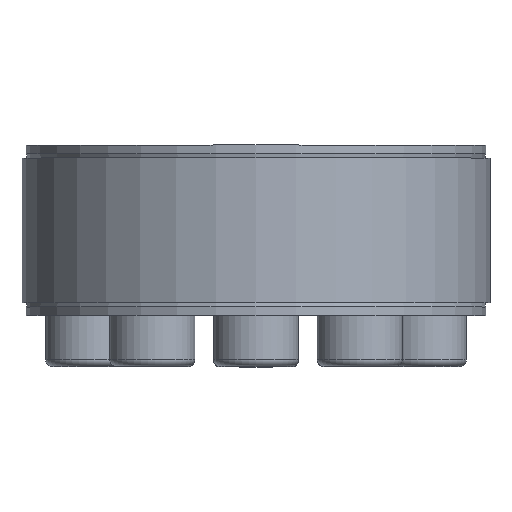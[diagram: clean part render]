
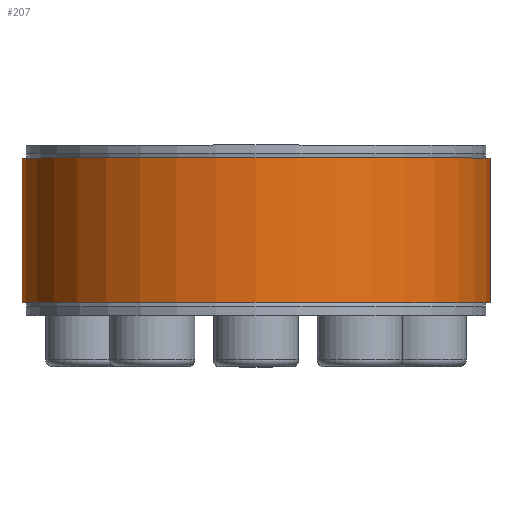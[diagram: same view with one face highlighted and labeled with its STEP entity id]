
A CAD part, top view. The second image highlights one B-rep face of the part: STEP entity #207.
In plain terms, the highlighted cylindrical face has radius 27.5 mm (diameter 55 mm), a partial arc.
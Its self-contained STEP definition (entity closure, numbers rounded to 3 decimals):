
#207 = ADVANCED_FACE( '', ( #391 ), #392, .T. );
#391 = FACE_OUTER_BOUND( '', #612, .T. );
#392 = CYLINDRICAL_SURFACE( '', #613, 27.5 );
#612 = EDGE_LOOP( '', ( #1142, #1143, #1144, #1145 ) );
#613 = AXIS2_PLACEMENT_3D( '', #1146, #1147, #1148 );
#1142 = ORIENTED_EDGE( '', *, *, #1980, .F. );
#1143 = ORIENTED_EDGE( '', *, *, #1981, .T. );
#1144 = ORIENTED_EDGE( '', *, *, #1976, .T. );
#1145 = ORIENTED_EDGE( '', *, *, #1982, .F. );
#1146 = CARTESIAN_POINT( '', ( 0., -60., 0. ) );
#1147 = DIRECTION( '', ( 0., -1., 0. ) );
#1148 = DIRECTION( '', ( 0., 0., 1. ) );
#1976 = EDGE_CURVE( '', #2752, #2753, #2754, .T. );
#1980 = EDGE_CURVE( '', #2758, #2759, #2760, .T. );
#1981 = EDGE_CURVE( '', #2758, #2752, #2761, .T. );
#1982 = EDGE_CURVE( '', #2759, #2753, #2762, .T. );
#2752 = VERTEX_POINT( '', #4408 );
#2753 = VERTEX_POINT( '', #4409 );
#2754 = CIRCLE( '', #4410, 27.5 );
#2758 = VERTEX_POINT( '', #4416 );
#2759 = VERTEX_POINT( '', #4417 );
#2760 = CIRCLE( '', #4418, 27.5 );
#2761 = LINE( '', #4419, #4420 );
#2762 = LINE( '', #4421, #4422 );
#4408 = CARTESIAN_POINT( '', ( 0.458, 8.5, -27.496 ) );
#4409 = CARTESIAN_POINT( '', ( -0.458, 8.5, -27.496 ) );
#4410 = AXIS2_PLACEMENT_3D( '', #4946, #4947, #4948 );
#4416 = CARTESIAN_POINT( '', ( 0.458, -8.5, -27.496 ) );
#4417 = CARTESIAN_POINT( '', ( -0.458, -8.5, -27.496 ) );
#4418 = AXIS2_PLACEMENT_3D( '', #4951, #4952, #4953 );
#4419 = CARTESIAN_POINT( '', ( 0.458, -60., -27.496 ) );
#4420 = VECTOR( '', #4954, 1000. );
#4421 = CARTESIAN_POINT( '', ( -0.458, -60., -27.496 ) );
#4422 = VECTOR( '', #4955, 1000. );
#4946 = CARTESIAN_POINT( '', ( 0., 8.5, 0. ) );
#4947 = DIRECTION( '', ( 0., -1., 0. ) );
#4948 = DIRECTION( '', ( 0., 0., -1. ) );
#4951 = CARTESIAN_POINT( '', ( 0., -8.5, 0. ) );
#4952 = DIRECTION( '', ( 0., -1., 0. ) );
#4953 = DIRECTION( '', ( 0., 0., -1. ) );
#4954 = DIRECTION( '', ( 0., 1., 0. ) );
#4955 = DIRECTION( '', ( 0., 1., 0. ) );
